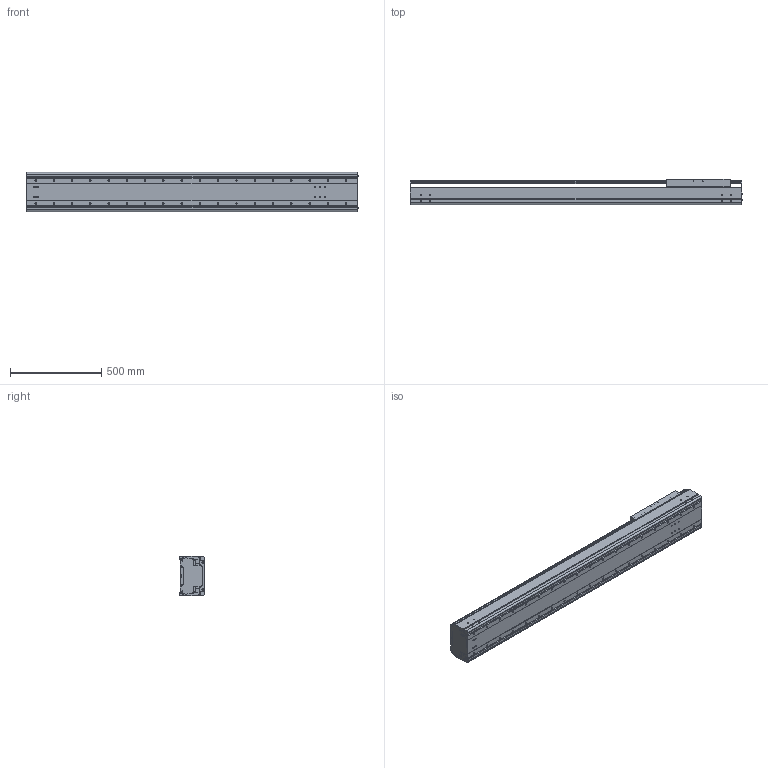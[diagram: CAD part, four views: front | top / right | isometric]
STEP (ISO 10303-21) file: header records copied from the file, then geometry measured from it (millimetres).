
FILE_DESCRIPTION((''),'2;1');
FILE_NAME('BE60G-ST-L_N-D5_IGS_PRT','2017-06-18T',(' '),(''),'PRO/ENGINEER BY PARAMETRIC TECHNOLOGY CORPORATION, 2015030','PRO/ENGINEER BY PARAMETRIC TECHNOLOGY CORPORATION, 2015030','');
FILE_SCHEMA(('CONFIG_CONTROL_DESIGN'));
Products named in the file (1): BE60G-ST-L_N-D5_IGS_PRT
Bounding box: 1817.4 x 140 x 214 mm (x, y, z)
Volume: 14678332.4 mm3; surface area: 3867642.8 mm2
Topology: 2 solids, 168 shells, 1722 faces, 4833 edges, 3175 vertices
Faces by surface type: cylinder 904, plane 638, cone 132, sphere 24, torus 24
Entity records: 57799 total; most frequent: CARTESIAN_POINT 13358, DIRECTION 9320, ORIENTED_EDGE 8746, EDGE_CURVE 4701, AXIS2_PLACEMENT_3D 3501, VERTEX_POINT 3173, VECTOR 2318, LINE 2318
